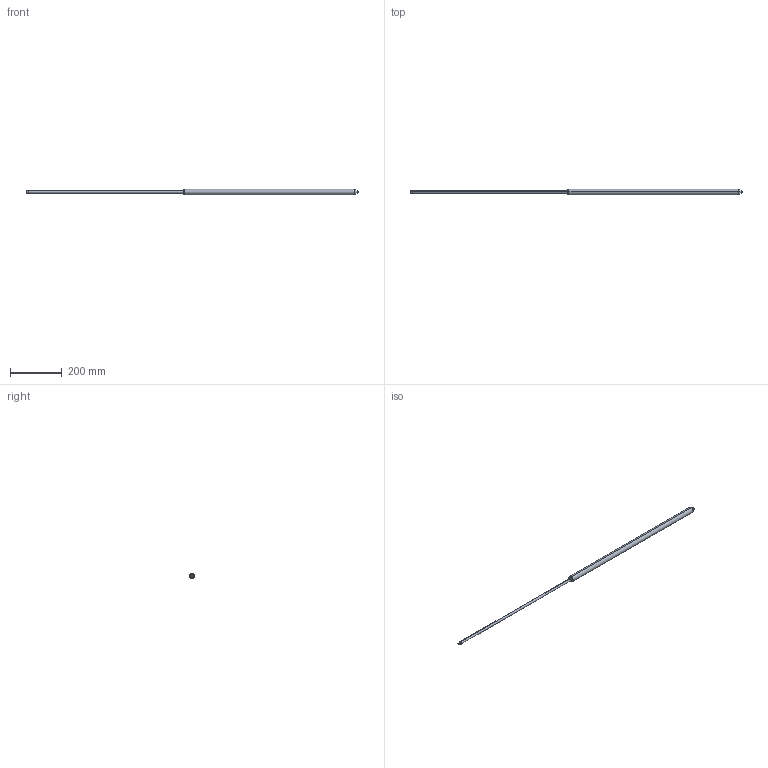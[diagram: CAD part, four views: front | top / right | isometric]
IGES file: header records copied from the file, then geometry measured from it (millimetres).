
Start section: SolidWorks IGES file using analytic representation for surfaces
Bounding box: 1281 x 22 x 22 mm (x, y, z)
Surface area: 65665.8 mm2 (no closed solid volume)
Topology: 0 solids, 0 shells, 25 faces, 336 edges, 336 vertices
Faces by surface type: revolution 16, bspline 9
